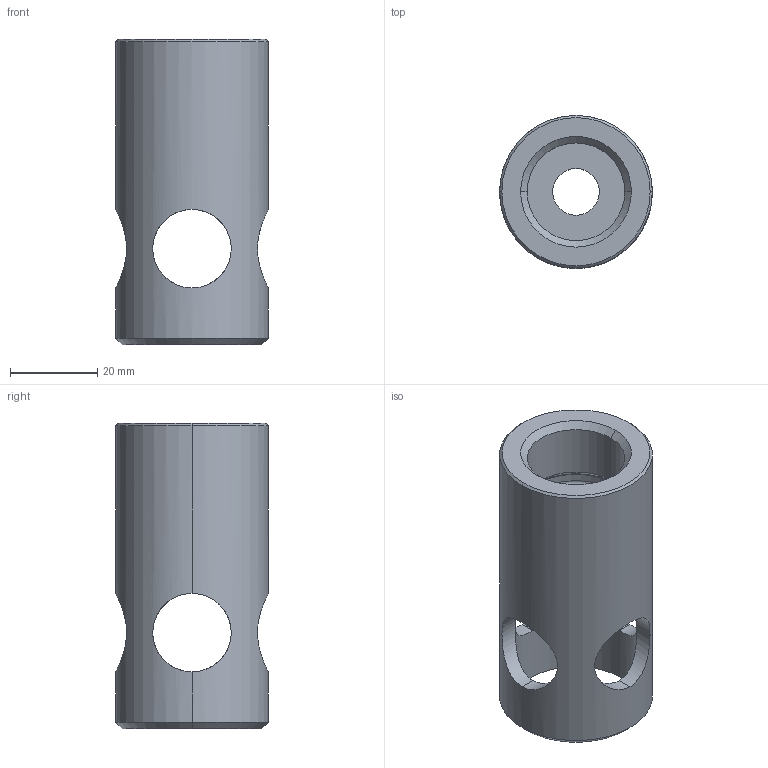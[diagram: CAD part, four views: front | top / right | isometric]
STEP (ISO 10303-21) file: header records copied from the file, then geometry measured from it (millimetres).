
FILE_DESCRIPTION (( 'STEP AP214' ), '1' );
FILE_NAME ('ﾒ矜 蒟裲 1.STEP', '2023-02-16T12:42:14', ( '' ), ( '' ), 'SwSTEP 2.0', 'SolidWorks 2020', '' );
FILE_SCHEMA (( 'AUTOMOTIVE_DESIGN' ));
Length unit declared in the file: millimetre
Products named in the file (1): ﾒ矜 蒟裲 1
Bounding box: 35 x 35 x 70 mm (x, y, z)
Volume: 31202.2 mm3; surface area: 12998.7 mm2
Topology: 1 solids, 1 shells, 35 faces, 82 edges, 46 vertices
Faces by surface type: cylinder 18, cone 10, torus 4, plane 3
Entity records: 1784 total; most frequent: CARTESIAN_POINT 900, DIRECTION 172, ORIENTED_EDGE 164, EDGE_CURVE 82, AXIS2_PLACEMENT_3D 70, VERTEX_POINT 46, EDGE_LOOP 42, FACE_OUTER_BOUND 35
